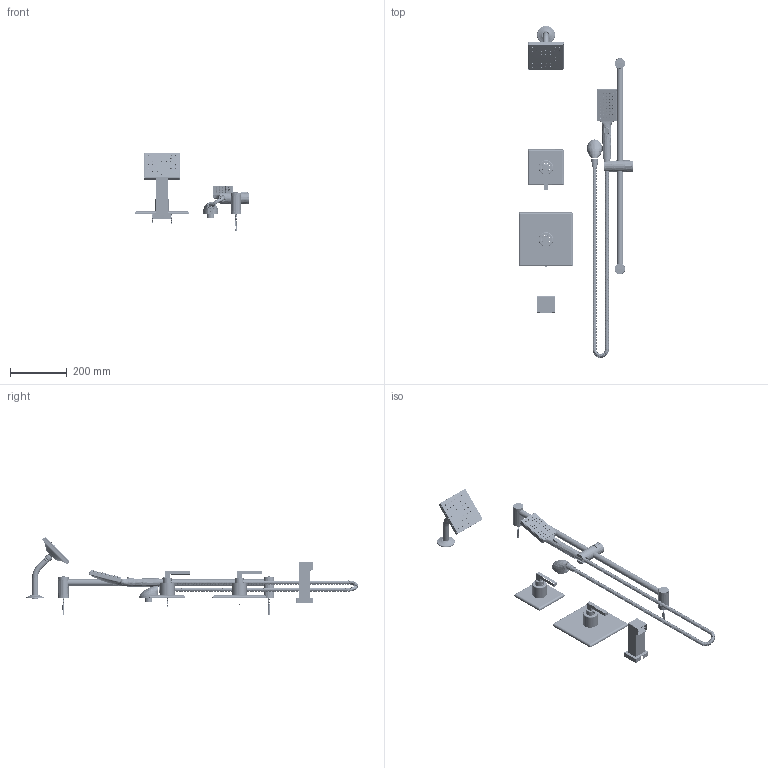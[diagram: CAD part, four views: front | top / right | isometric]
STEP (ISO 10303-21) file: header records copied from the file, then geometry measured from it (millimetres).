
FILE_DESCRIPTION (( 'STEP AP214' ), '1' );
FILE_NAME ('3696TRM.STEP', '2025-01-15T11:57:47', ( '' ), ( '' ), 'SwSTEP 2.0', 'SolidWorks 2023', '' );
FILE_SCHEMA (( 'AUTOMOTIVE_DESIGN' ));
Products named in the file (1): 3696TRM
Bounding box: 402.68 x 1171.01 x 277.54 mm (x, y, z)
Surface area: 615361.2 mm2 (no closed solid volume)
Topology: 0 solids, 220 shells, 1909 faces, 6792 edges, 4987 vertices
Faces by surface type: cylinder 840, plane 489, bspline 274, cone 226, torus 68, sphere 12
Entity records: 471559 total; most frequent: CARTESIAN_POINT 419750, ORIENTED_EDGE 10291, DIRECTION 8917, EDGE_CURVE 6767, VERTEX_POINT 4984, AXIS2_PLACEMENT_3D 3191, LINE 2535, VECTOR 2535
